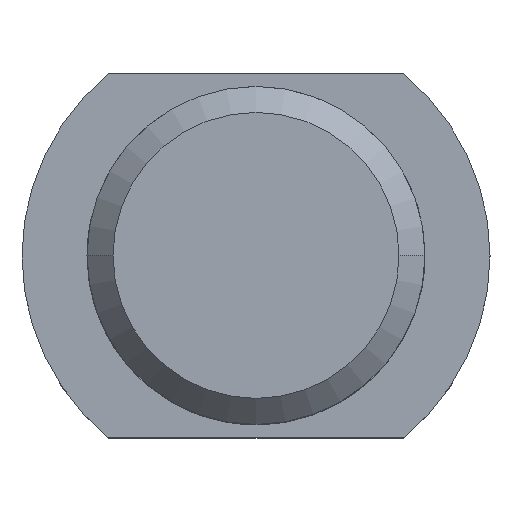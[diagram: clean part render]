
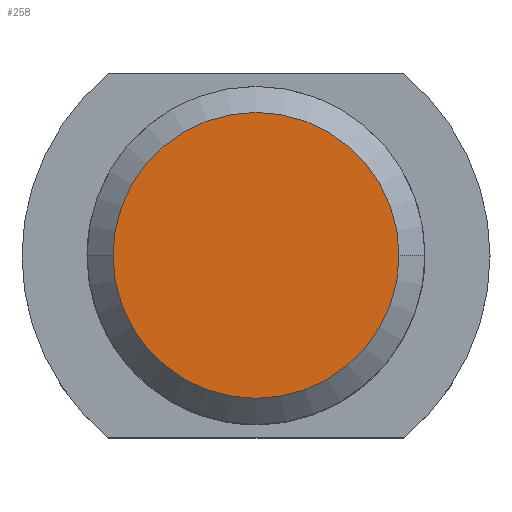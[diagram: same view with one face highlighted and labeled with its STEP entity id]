
A CAD part, top view. The second image highlights one B-rep face of the part: STEP entity #258.
In plain terms, the highlighted planar face has unit normal (0, 0, 1).
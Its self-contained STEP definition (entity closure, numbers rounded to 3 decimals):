
#158=CARTESIAN_POINT('Axis2P3D Location',(0.,0.,0.)) ;
#162=CARTESIAN_POINT('Vertex',(5.5,0.,0.)) ;
#164=CARTESIAN_POINT('Vertex',(-5.5,0.,0.)) ;
#237=CARTESIAN_POINT('Axis2P3D Location',(0.,0.,0.)) ;
#249=CARTESIAN_POINT('Axis2P3D Location',(0.,0.,0.)) ;
#159=DIRECTION('Axis2P3D Direction',(0.,0.,-1.)) ;
#238=DIRECTION('Axis2P3D Direction',(0.,0.,-1.)) ;
#250=DIRECTION('Axis2P3D Direction',(0.,-0.,1.)) ;
#251=DIRECTION('Axis2P3D XDirection',(1.,0.,0.)) ;
#160=AXIS2_PLACEMENT_3D('Circle Axis2P3D',#158,#159,$) ;
#239=AXIS2_PLACEMENT_3D('Circle Axis2P3D',#237,#238,$) ;
#252=AXIS2_PLACEMENT_3D('Plane Axis2P3D',#249,#250,#251) ;
#255=ORIENTED_EDGE('',*,*,#241,.T.) ;
#256=ORIENTED_EDGE('',*,*,#166,.T.) ;
#258=ADVANCED_FACE('\X2\52079664\X0\-\X2\62C94F38\X0\5',(#257),#253,.T.) ;
#161=CIRCLE('generated circle',#160,5.5) ;
#240=CIRCLE('generated circle',#239,5.5) ;
#166=EDGE_CURVE('',#163,#165,#161,.F.) ;
#241=EDGE_CURVE('',#165,#163,#240,.F.) ;
#254=EDGE_LOOP('',(#255,#256)) ;
#257=FACE_OUTER_BOUND('',#254,.T.) ;
#253=PLANE('Plane',#252) ;
#163=VERTEX_POINT('',#162) ;
#165=VERTEX_POINT('',#164) ;
